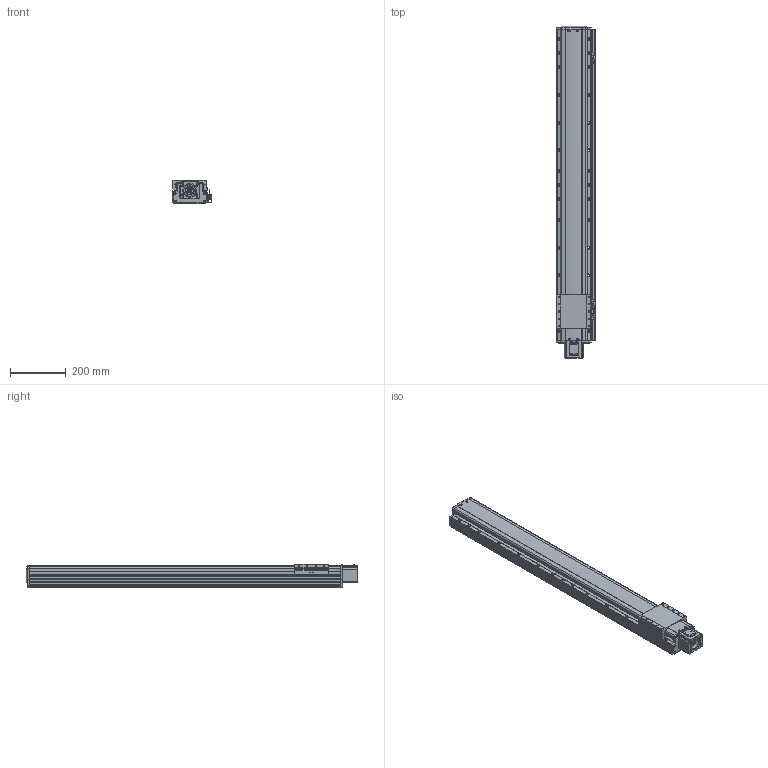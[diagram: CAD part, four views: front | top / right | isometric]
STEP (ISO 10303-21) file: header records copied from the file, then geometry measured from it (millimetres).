
FILE_DESCRIPTION(('STEP AP214'),'1');
FILE_NAME('Z:/Web/3D/PSA125/STP/PSA125-900 (3D)/PSA125ㅁㅁ-900S+3SR.stp','2014-06-23T04:54:16',(' '),(' '),'Spatial InterOp 3D',' ',' ');
FILE_SCHEMA(('automotive_design'));
Length unit declared in the file: millimetre
Products named in the file (53): 스크루 : Round - M4.0 x 10.0; RRCV-PA120; SLIDE; BASE; FRCV-PA120-1(기준 뿔 제거); RR1500; 스크루 : Round - M4.0 x 6.0; 너트 : Square - M10.0 x 220.7419; SSFX-SAN65; CPLCV-SAN65; 스크루 : Round - M3.0 x 6.0; MTHZ-PA120-S60A-3; 스크루 : Socket - M4.0 x 20.0; FRCV; NONE; EE-SX674; SBK-SX674-352; M3.0 x 6.0; SRL-16x17-380L; SGD-PA95; 스크루 : Round - M3.0 x 8.0
Bounding box: 141 x 1194.6 x 86 mm (x, y, z)
Volume: 9785350 mm3; surface area: 941990.4 mm2
Topology: 53 solids, 87 shells, 3755 faces, 9654 edges, 6104 vertices
Faces by surface type: plane 1830, cylinder 1167, cone 473, torus 174, sphere 70, bspline 41
Entity records: 148054 total; most frequent: CARTESIAN_POINT 24037, DIRECTION 20220, ORIENTED_EDGE 18948, EDGE_CURVE 9474, AXIS2_PLACEMENT_3D 7251, VERTEX_POINT 6104, LINE 5718, VECTOR 5718
